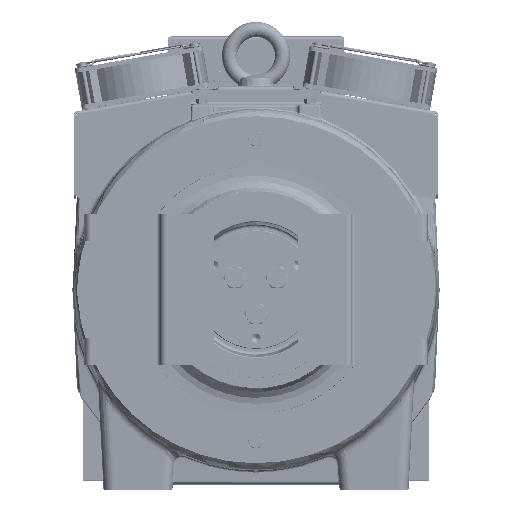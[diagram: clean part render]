
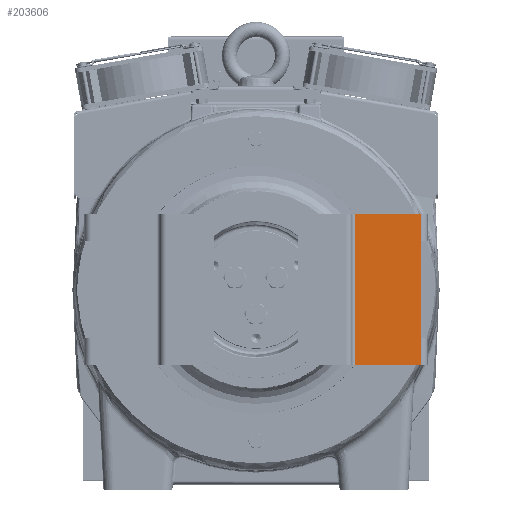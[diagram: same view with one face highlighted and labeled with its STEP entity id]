
A CAD part, top view. The second image highlights one B-rep face of the part: STEP entity #203606.
In plain terms, the highlighted planar face has unit normal (0, 0, 1) as drawn and (0, 1, 0) by its records, which use the part's own axes.
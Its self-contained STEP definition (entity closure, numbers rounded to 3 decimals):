
#202598=DIRECTION('',(-1.,0.,0.));
#202599=VECTOR('',#202598,140.);
#202600=CARTESIAN_POINT('',(140.,-65.,3.));
#202601=LINE('',#202600,#202599);
#202606=DIRECTION('',(0.,0.,-1.));
#202607=VECTOR('',#202606,61.);
#202608=CARTESIAN_POINT('',(0.,-65.,
64.));
#202609=LINE('',#202608,#202607);
#202610=DIRECTION('',(-1.,0.,0.));
#202611=VECTOR('',#202610,90.);
#202612=CARTESIAN_POINT('',(115.,-65.,64.));
#202613=LINE('',#202612,#202611);
#202618=DIRECTION('',(1.,0.,0.));
#202619=VECTOR('',#202618,25.);
#202620=CARTESIAN_POINT('',(0.,-65.,
64.));
#202621=LINE('',#202620,#202619);
#202658=DIRECTION('',(1.,0.,0.));
#202659=VECTOR('',#202658,25.);
#202660=CARTESIAN_POINT('',(115.,-65.,64.));
#202661=LINE('',#202660,#202659);
#202684=DIRECTION('',(0.,0.,-1.));
#202685=VECTOR('',#202684,61.);
#202686=CARTESIAN_POINT('',(140.,-65.,64.));
#202687=LINE('',#202686,#202685);
#203266=CARTESIAN_POINT('',(0.,-65.,3.));
#203267=VERTEX_POINT('',#203266);
#203270=CARTESIAN_POINT('',(140.,-65.,3.));
#203271=VERTEX_POINT('',#203270);
#203272=CARTESIAN_POINT('',(0.,-65.,
64.));
#203273=CARTESIAN_POINT('',(25.,-65.,64.));
#203274=VERTEX_POINT('',#203272);
#203275=VERTEX_POINT('',#203273);
#203276=CARTESIAN_POINT('',(140.,-65.,64.));
#203277=VERTEX_POINT('',#203276);
#203278=CARTESIAN_POINT('',(115.,-65.,64.));
#203279=VERTEX_POINT('',#203278);
#203588=CARTESIAN_POINT('',(0.,-65.,0.));
#203589=DIRECTION('',(0.,1.,0.));
#203590=DIRECTION('',(0.,0.,1.));
#203591=AXIS2_PLACEMENT_3D('',#203588,#203589,#203590);
#203592=PLANE('',#203591);
#203594=ORIENTED_EDGE('',*,*,#203593,.F.);
#203596=ORIENTED_EDGE('',*,*,#203595,.T.);
#203597=ORIENTED_EDGE('',*,*,#203579,.F.);
#203599=ORIENTED_EDGE('',*,*,#203598,.F.);
#203601=ORIENTED_EDGE('',*,*,#203600,.F.);
#203603=ORIENTED_EDGE('',*,*,#203602,.T.);
#203604=EDGE_LOOP('',(#203594,#203596,#203597,#203599,#203601,#203603));
#203605=FACE_OUTER_BOUND('',#203604,.F.);
#203606=ADVANCED_FACE('',(#203605),#203592,.T.);
#203579=EDGE_CURVE('',#203271,#203267,#202601,.T.);
#203593=EDGE_CURVE('',#203274,#203275,#202621,.T.);
#203595=EDGE_CURVE('',#203274,#203267,#202609,.T.);
#203598=EDGE_CURVE('',#203277,#203271,#202687,.T.);
#203600=EDGE_CURVE('',#203279,#203277,#202661,.T.);
#203602=EDGE_CURVE('',#203279,#203275,#202613,.T.);
